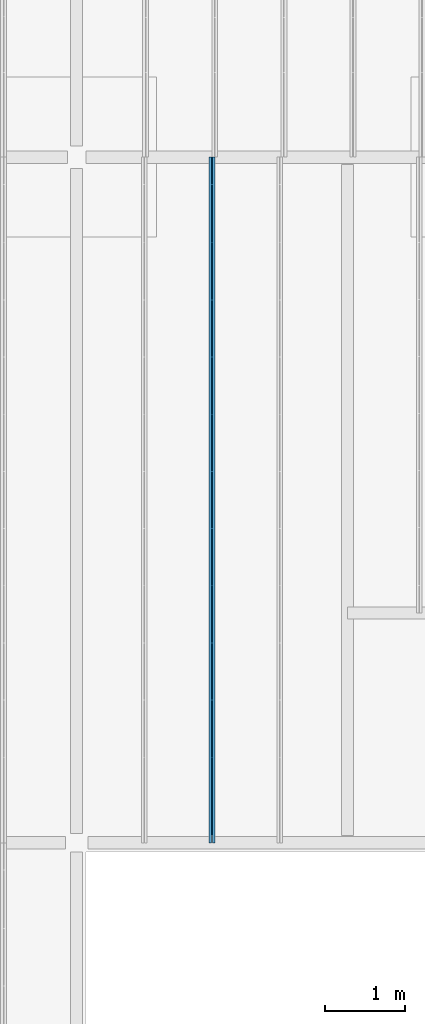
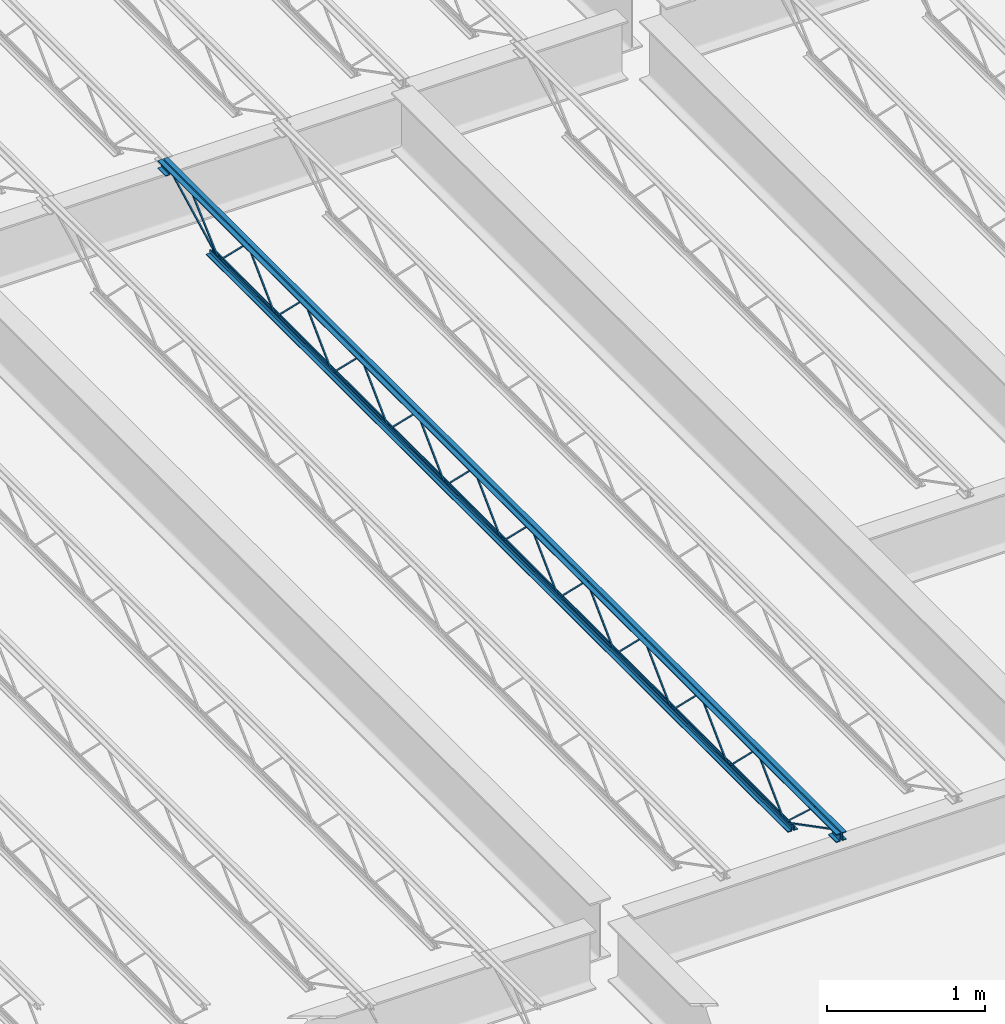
# One storey, part 18 of 75: 1 beam.
"""IFC2X3 building model written with IfcOpenShell, lengths in metres."""

from ifc_helpers import new_model, entity, si_unit, converted_unit, frame, origin, place, context, project, spatial, face_set, surface_model, element, save


model = new_model("IFC2X3")

# Units and contexts
model_context = context("Model", 3, precision=1e-09, world=origin())
plan_context = context("Plan", 3, precision=1e-09, world=origin())
ifc_project = project(units=[si_unit("LENGTHUNIT", "METRE"), si_unit("AREAUNIT", "SQUARE_METRE"), si_unit("VOLUMEUNIT", "CUBIC_METRE"), converted_unit("PLANEANGLEUNIT", "DEGREE", entity("IfcRatioMeasure", 0.01745329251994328), si_unit("PLANEANGLEUNIT", "RADIAN"), dimensions=[0, 0, 0, 0, 0, 0, 0]), si_unit("TIMEUNIT", "SECOND")], contexts=[model_context, plan_context])

# Site, building, storey
site_placement = place(None, origin())
site = spatial("IfcSite", under=ifc_project, at=site_placement, Name="Default", CompositionType="ELEMENT")
building_placement = place(site_placement, origin())
building = spatial("IfcBuilding", under=site, at=building_placement, CompositionType="ELEMENT")
storey_placement = place(building_placement, origin())
storey = spatial("IfcBuildingStorey", under=building, at=storey_placement, Name="First Floor", CompositionType="ELEMENT", Elevation=-3.531500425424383e-13)

# Beam
beam_placement = place(storey_placement, frame((-18.4042794, 10.03999999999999, 4.112000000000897), z_axis=(0.0, 0.0, 1.0), x_axis=(-1.0, 0.0, 0.0)))
element("IfcBeam", 1, at=beam_placement, inside=storey, Name="M_K-Series Bar Joist-Rod Web:14K1:14K1", ObjectType="M_K-Series Bar Joist-Rod Web:14K1", context=model_context, shape_type="SurfaceModel", body=[
    surface_model("IfcFaceBasedSurfaceModel", [(-0.03200000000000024, -2.141200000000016, 0.01110000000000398), (-0.04149999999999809, -2.141200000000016, 0.01110000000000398), (-0.04149999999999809, -2.141200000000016, 0.001600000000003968), (-0.03200000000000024, -2.141200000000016, 0.001600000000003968), (-0.04150000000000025, -2.139961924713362, 0.01110000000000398), (-0.03200000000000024, -2.139961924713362, 0.01110000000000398), (-0.04149999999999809, -2.136088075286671, 0.001600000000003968), (-0.04149999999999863, -1.785138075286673, 0.3449000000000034), (-0.04149999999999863, -1.782661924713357, 0.3449000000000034), (-0.04149999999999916, -1.431711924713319, 0.001600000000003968), (-0.04149999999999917, -1.426600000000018, 0.001600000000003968), (-0.04149999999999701, -1.426600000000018, 0.01110000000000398), (-0.04149999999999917, -1.427838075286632, 0.01110000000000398), (-0.04149999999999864, -1.77878807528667, 0.3544000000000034), (-0.04149999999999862, -1.78901192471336, 0.3544000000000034), (-0.03199999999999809, -2.136088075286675, 0.001600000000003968), (-0.03200000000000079, -1.785138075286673, 0.3449000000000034), (-0.03200000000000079, -1.782661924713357, 0.3449000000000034), (-0.03200000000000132, -1.431711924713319, 0.001600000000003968), (-0.03200000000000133, -1.426600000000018, 0.001600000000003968), (-0.03200000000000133, -1.426600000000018, 0.01110000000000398), (-0.03200000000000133, -1.427838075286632, 0.01110000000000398), (-0.03200000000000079, -1.77878807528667, 0.3544000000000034), (-0.03200000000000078, -1.78901192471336, 0.3544000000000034), (-0.03200000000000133, -2.855800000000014, 0.01110000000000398), (-0.04149999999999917, -2.855800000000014, 0.01110000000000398), (-0.04149999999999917, -2.855800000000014, 0.001600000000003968), (-0.03200000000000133, -2.855800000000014, 0.001600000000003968), (-0.04150000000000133, -2.854561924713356, 0.01110000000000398), (-0.03200000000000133, -2.854561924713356, 0.01110000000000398), (-0.04149999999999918, -2.850688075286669, 0.001600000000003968), (-0.04149999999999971, -2.499738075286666, 0.3449000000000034), (-0.04149999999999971, -2.497261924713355, 0.3449000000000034), (-0.04150000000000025, -2.146311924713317, 0.001600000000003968), (-0.04149999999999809, -2.141200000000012, 0.001600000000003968), (-0.04149999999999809, -2.141200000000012, 0.01110000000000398), (-0.04150000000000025, -2.14243807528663, 0.01110000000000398), (-0.04149999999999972, -2.493388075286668, 0.3544000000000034), (-0.0414999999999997, -2.503611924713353, 0.3544000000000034), (-0.03199999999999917, -2.850688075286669, 0.001600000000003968), (-0.03200000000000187, -2.499738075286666, 0.3449000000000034), (-0.03200000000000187, -2.497261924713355, 0.3449000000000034), (-0.0320000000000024, -2.146311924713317, 0.001600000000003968), (-0.03200000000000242, -2.141200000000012, 0.001600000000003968), (-0.03200000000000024, -2.141200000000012, 0.01110000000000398), (-0.03200000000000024, -2.14243807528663, 0.01110000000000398), (-0.03200000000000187, -2.493388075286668, 0.3544000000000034), (-0.03200000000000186, -2.503611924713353, 0.3544000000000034), (-0.03200000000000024, -3.570400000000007, 0.01110000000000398), (-0.04149999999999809, -3.570400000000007, 0.01110000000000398), (-0.04149999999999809, -3.570400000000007, 0.001600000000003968), (-0.03200000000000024, -3.570400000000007, 0.001600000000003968), (-0.04150000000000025, -3.569161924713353, 0.01110000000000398), (-0.03200000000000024, -3.569161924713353, 0.01110000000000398), (-0.04149999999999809, -3.565288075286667, 0.001600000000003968), (-0.04149999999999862, -3.214338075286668, 0.3449000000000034), (-0.04149999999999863, -3.211861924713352, 0.3449000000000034), (-0.04149999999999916, -2.860911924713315, 0.001600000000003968), (-0.04149999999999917, -2.855800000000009, 0.001600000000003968), (-0.04149999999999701, -2.855800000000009, 0.01110000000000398), (-0.04149999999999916, -2.857038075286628, 0.01110000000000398), (-0.04149999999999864, -3.207988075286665, 0.3544000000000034), (-0.04149999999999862, -3.218211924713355, 0.3544000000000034), (-0.03199999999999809, -3.565288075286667, 0.001600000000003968), (-0.03200000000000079, -3.214338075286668, 0.3449000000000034), (-0.03200000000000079, -3.211861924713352, 0.3449000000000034), (-0.03200000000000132, -2.860911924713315, 0.001600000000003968), (-0.03200000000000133, -2.855800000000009, 0.001600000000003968), (-0.03200000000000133, -2.855800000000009, 0.01110000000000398), (-0.03200000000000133, -2.857038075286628, 0.01110000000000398), (-0.03200000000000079, -3.207988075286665, 0.3544000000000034), (-0.03200000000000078, -3.218211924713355, 0.3544000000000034), (-0.03200000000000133, -4.285000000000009, 0.01110000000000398), (-0.04149999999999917, -4.285000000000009, 0.01110000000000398), (-0.04149999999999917, -4.285000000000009, 0.001600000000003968), (-0.03200000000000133, -4.285000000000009, 0.001600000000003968), (-0.04150000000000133, -4.283761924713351, 0.01110000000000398), (-0.03200000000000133, -4.283761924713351, 0.01110000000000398), (-0.04149999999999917, -4.279888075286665, 0.001600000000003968), (-0.0414999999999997, -3.928938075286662, 0.3449000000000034), (-0.04149999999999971, -3.92646192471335, 0.3449000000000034), (-0.04150000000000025, -3.575511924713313, 0.001600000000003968), (-0.04150000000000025, -3.571638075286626, 0.01110000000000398), (-0.04149999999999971, -3.922588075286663, 0.3544000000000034), (-0.0414999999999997, -3.932811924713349, 0.3544000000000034), (-0.03199999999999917, -4.279888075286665, 0.001600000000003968), (-0.03200000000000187, -3.928938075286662, 0.3449000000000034), (-0.03200000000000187, -3.92646192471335, 0.3449000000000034), (-0.0320000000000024, -3.575511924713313, 0.001600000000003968), (-0.03200000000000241, -3.570400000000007, 0.001600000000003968), (-0.03200000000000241, -3.571638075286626, 0.01110000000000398), (-0.03200000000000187, -3.922588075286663, 0.3544000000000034), (-0.03200000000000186, -3.932811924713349, 0.3544000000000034), (-0.03200000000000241, -4.999600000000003, 0.01110000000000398), (-0.04150000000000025, -4.999600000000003, 0.01110000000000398), (-0.04150000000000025, -4.999600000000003, 0.001600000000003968), (-0.03200000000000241, -4.999600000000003, 0.001600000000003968), (-0.04150000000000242, -4.998361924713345, 0.01110000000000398), (-0.03200000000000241, -4.998361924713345, 0.01110000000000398), (-0.04149999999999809, -4.994488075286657, 0.001600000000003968), (-0.04149999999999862, -4.643538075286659, 0.3449000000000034), (-0.04149999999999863, -4.641061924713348, 0.3449000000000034), (-0.04149999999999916, -4.290111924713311, 0.001600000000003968), (-0.04149999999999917, -4.285000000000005, 0.001600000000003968), (-0.04149999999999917, -4.285, 0.01110000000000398), (-0.04150000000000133, -4.286238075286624, 0.01110000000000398), (-0.04150000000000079, -4.637188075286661, 0.3544000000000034), (-0.04150000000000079, -4.647411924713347, 0.3544000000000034), (-0.03200000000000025, -4.994488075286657, 0.001600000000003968), (-0.03200000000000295, -4.643538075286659, 0.3449000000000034), (-0.03200000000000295, -4.641061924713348, 0.3449000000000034), (-0.03200000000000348, -4.290111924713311, 0.001600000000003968), (-0.03200000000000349, -4.285, 0.001600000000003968), (-0.03200000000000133, -4.285000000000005, 0.01110000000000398), (-0.03200000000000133, -4.286238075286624, 0.01110000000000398), (-0.03200000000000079, -4.637188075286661, 0.3544000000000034), (-0.03200000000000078, -4.647411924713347, 0.3544000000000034), (-0.03200000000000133, -5.714200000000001, 0.01110000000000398), (-0.04149999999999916, -5.714200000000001, 0.01110000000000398), (-0.04149999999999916, -5.714200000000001, 0.001600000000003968), (-0.03200000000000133, -5.714200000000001, 0.001600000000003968), (-0.04150000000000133, -5.712961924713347, 0.01110000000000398), (-0.03200000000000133, -5.712961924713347, 0.01110000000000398), (-0.04149999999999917, -5.70908807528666, 0.001600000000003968), (-0.0414999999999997, -5.358138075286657, 0.3449000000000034), (-0.04149999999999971, -5.355661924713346, 0.3449000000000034), (-0.04150000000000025, -5.004711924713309, 0.001600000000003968), (-0.04149999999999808, -4.999600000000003, 0.01110000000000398), (-0.04150000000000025, -5.000838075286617, 0.01110000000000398), (-0.04149999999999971, -5.351788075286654, 0.3544000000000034), (-0.0414999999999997, -5.362011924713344, 0.3544000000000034), (-0.03199999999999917, -5.70908807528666, 0.001600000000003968), (-0.03200000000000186, -5.358138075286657, 0.3449000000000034), (-0.03200000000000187, -5.355661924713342, 0.3449000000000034), (-0.0320000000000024, -5.004711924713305, 0.001600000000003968), (-0.0320000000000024, -5.000838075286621, 0.01110000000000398), (-0.03200000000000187, -5.351788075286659, 0.3544000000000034), (-0.03200000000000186, -5.362011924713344, 0.3544000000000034), (-0.03200000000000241, -6.428799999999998, 0.01110000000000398), (-0.04150000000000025, -6.428799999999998, 0.01110000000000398), (-0.04150000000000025, -6.428799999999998, 0.001600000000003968), (-0.03200000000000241, -6.428799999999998, 0.001600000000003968), (-0.04150000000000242, -6.42756192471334, 0.01110000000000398), (-0.03200000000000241, -6.42756192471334, 0.01110000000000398), (-0.04149999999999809, -6.423688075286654, 0.001600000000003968), (-0.04149999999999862, -6.072738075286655, 0.3449000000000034), (-0.04149999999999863, -6.070261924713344, 0.3449000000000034), (-0.04149999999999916, -5.719311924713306, 0.001600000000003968), (-0.04149999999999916, -5.714199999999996, 0.001600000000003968), (-0.04149999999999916, -5.714199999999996, 0.01110000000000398), (-0.04150000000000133, -5.715438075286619, 0.01110000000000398), (-0.04150000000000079, -6.066388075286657, 0.3544000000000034), (-0.04150000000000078, -6.076611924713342, 0.3544000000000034), (-0.03200000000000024, -6.423688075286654, 0.001600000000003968), (-0.03200000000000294, -6.072738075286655, 0.3449000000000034), (-0.03200000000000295, -6.070261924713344, 0.3449000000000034), (-0.03200000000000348, -5.719311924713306, 0.001600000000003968), (-0.03200000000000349, -5.714199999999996, 0.001600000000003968), (-0.03200000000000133, -5.714199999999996, 0.01110000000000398), (-0.03200000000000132, -5.715438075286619, 0.01110000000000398), (-0.03200000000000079, -6.066388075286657, 0.3544000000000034), (-0.03200000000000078, -6.076611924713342, 0.3544000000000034), (-0.03200000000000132, -7.143399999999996, 0.01110000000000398), (-0.04149999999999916, -7.143399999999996, 0.01110000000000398), (-0.04149999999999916, -7.143399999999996, 0.001600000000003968), (-0.03200000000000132, -7.143399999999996, 0.001600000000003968), (-0.04150000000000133, -7.142161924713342, 0.01110000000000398), (-0.03200000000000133, -7.142161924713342, 0.01110000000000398), (-0.04149999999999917, -7.138288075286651, 0.001600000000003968), (-0.0414999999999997, -6.787338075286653, 0.3449000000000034), (-0.0414999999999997, -6.784861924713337, 0.3449000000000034), (-0.04150000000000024, -6.4339119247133, 0.001600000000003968), (-0.04149999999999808, -6.428799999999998, 0.01110000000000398), (-0.04150000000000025, -6.430038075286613, 0.01110000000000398), (-0.04149999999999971, -6.780988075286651, 0.3544000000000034), (-0.0414999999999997, -6.79121192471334, 0.3544000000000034), (-0.03199999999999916, -7.138288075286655, 0.001600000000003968), (-0.03200000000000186, -6.787338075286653, 0.3449000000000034), (-0.03200000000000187, -6.784861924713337, 0.3449000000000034), (-0.0320000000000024, -6.4339119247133, 0.001600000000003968), (-0.0320000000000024, -6.430038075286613, 0.01110000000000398), (-0.03200000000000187, -6.780988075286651, 0.3544000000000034), (-0.03200000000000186, -6.79121192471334, 0.3544000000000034), (-0.03199999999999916, -1.426600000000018, 0.01109999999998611), (-0.04149999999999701, -1.426600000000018, 0.01109999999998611), (-0.04149999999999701, -1.426600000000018, 0.0015999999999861), (-0.03199999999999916, -1.426600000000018, 0.0015999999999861), (-0.04149999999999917, -1.42536192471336, 0.01109999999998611), (-0.03199999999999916, -1.42536192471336, 0.01109999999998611), (-0.04149999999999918, -1.421488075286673, 0.0015999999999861), (-0.04149999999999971, -1.07053807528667, 0.3448999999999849), (-0.04149999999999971, -1.068061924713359, 0.3448999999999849), (-0.04150000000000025, -0.7171119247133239, 0.0015999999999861), (-0.04149999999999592, -0.712000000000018, 0.0015999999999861), (-0.04149999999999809, -0.712000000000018, 0.01109999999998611), (-0.04150000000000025, -0.7132380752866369, 0.01109999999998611), (-0.04149999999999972, -1.064188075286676, 0.354399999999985), (-0.0414999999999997, -1.074411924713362, 0.354399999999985), (-0.03199999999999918, -1.421488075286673, 0.0015999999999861), (-0.0319999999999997, -1.070538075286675, 0.3448999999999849), (-0.0319999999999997, -1.068061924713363, 0.3448999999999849), (-0.03200000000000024, -0.7171119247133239, 0.0015999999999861), (-0.03200000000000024, -0.712000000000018, 0.0015999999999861), (-0.03199999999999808, -0.712000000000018, 0.01109999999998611), (-0.03199999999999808, -0.7132380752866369, 0.01109999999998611), (-0.03199999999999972, -1.064188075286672, 0.354399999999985), (-0.0319999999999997, -1.074411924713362, 0.354399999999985), (-0.0320000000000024, -7.857999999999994, 0.01110000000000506), (-0.04150000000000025, -7.857999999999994, 0.01110000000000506), (-0.04150000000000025, -7.857999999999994, 0.001600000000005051), (-0.0320000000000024, -7.857999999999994, 0.001600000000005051), (-0.04150000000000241, -7.856761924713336, 0.01110000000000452), (-0.03200000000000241, -7.856761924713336, 0.01110000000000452), (-0.04149999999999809, -7.852888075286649, 0.001600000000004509), (-0.04149999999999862, -7.501938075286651, 0.3449000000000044), (-0.04149999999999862, -7.499461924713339, 0.3449000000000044), (-0.04149999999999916, -7.148511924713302, 0.001600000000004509), (-0.04149999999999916, -7.143399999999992, 0.001600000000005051), (-0.04149999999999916, -7.143399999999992, 0.01110000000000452), (-0.04150000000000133, -7.144638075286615, 0.01110000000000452), (-0.04150000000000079, -7.495588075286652, 0.3544000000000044), (-0.04150000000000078, -7.505811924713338, 0.3544000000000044), (-0.03200000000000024, -7.852888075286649, 0.001600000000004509), (-0.03200000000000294, -7.501938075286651, 0.3449000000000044), (-0.03200000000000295, -7.499461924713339, 0.3449000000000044), (-0.03200000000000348, -7.148511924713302, 0.001600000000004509), (-0.03200000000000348, -7.143399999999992, 0.001600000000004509), (-0.03200000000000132, -7.143399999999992, 0.01110000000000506), (-0.03200000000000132, -7.144638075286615, 0.01110000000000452), (-0.03200000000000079, -7.495588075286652, 0.3544000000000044), (-0.03200000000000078, -7.505811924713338, 0.3544000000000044), (-0.04150000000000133, 0.0, 0.3559999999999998), (-0.07350000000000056, 0.0, 0.3559999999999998), (-0.07350000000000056, 0.0, 0.349499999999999), (-0.04800000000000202, 0.0, 0.349499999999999), (-0.04800000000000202, 0.0, 0.3239999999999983), (-0.04150000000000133, 0.0, 0.3239999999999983), (-0.03200000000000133, 0.0, 0.3559999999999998), (-0.03200000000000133, 0.0, 0.3239999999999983), (-0.02550000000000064, 0.0, 0.3239999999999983), (-0.02550000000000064, 0.0, 0.349499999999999), (0.0, 0.0, 0.349499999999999), (0.0, 0.0, 0.3559999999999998), (-0.04150000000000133, -8.569999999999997, 0.3559999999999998), (-0.07350000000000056, -8.569999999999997, 0.3559999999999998), (-0.07350000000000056, -8.569999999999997, 0.349499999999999), (-0.04800000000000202, -8.569999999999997, 0.349499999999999), (-0.04800000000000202, -8.569999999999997, 0.3239999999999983), (-0.04150000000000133, -8.569999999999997, 0.3239999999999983), (-0.03200000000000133, -8.569999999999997, 0.3559999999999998), (-0.03200000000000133, -8.569999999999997, 0.3239999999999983), (-0.02550000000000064, -8.569999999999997, 0.3239999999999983), (-0.02550000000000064, -8.569999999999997, 0.349499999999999), (0.0, -8.569999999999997, 0.349499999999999), (0.0, -8.569999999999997, 0.3559999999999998), (-0.03200000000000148, -8.470000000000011, 0.2924999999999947), (0.0, -8.470000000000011, 0.2924999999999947), (0.0, -8.470000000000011, 0.2989999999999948), (-0.02550000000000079, -8.470000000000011, 0.2989999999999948), (-0.02550000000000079, -8.470000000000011, 0.3239999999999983), (-0.03200000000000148, -8.470000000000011, 0.3239999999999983), (-0.0735000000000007, -8.470000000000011, 0.2924999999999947), (-0.04150000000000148, -8.470000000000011, 0.2924999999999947), (-0.04150000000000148, -8.470000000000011, 0.3239999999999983), (-0.04800000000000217, -8.470000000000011, 0.3239999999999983), (-0.04800000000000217, -8.470000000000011, 0.2989999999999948), (-0.0735000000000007, -8.470000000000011, 0.2989999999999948), (-0.03200000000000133, -8.569999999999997, 0.2924999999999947), (0.0, -8.569999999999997, 0.2924999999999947), (0.0, -8.569999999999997, 0.2989999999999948), (-0.02550000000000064, -8.569999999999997, 0.2989999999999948), (-0.07350000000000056, -8.569999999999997, 0.2924999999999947), (-0.04150000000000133, -8.569999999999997, 0.2924999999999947), (-0.04800000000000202, -8.569999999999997, 0.2989999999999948), (-0.07350000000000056, -8.569999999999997, 0.2989999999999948), (-0.04150000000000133, 0.0, 0.2924999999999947), (-0.04799999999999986, 0.0, 0.3239999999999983), (-0.04799999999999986, 0.0, 0.2989999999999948), (-0.07350000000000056, 0.0, 0.2989999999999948), (-0.07350000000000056, 0.0, 0.2924999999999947), (-0.03200000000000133, 0.0, 0.2924999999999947), (0.0, 0.0, 0.2924999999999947), (0.0, 0.0, 0.2989999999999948), (-0.02550000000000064, 0.0, 0.2989999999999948), (-0.04150000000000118, -0.09999999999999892, 0.2924999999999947), (-0.04150000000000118, -0.09999999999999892, 0.3239999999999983), (-0.0479999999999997, -0.09999999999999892, 0.3239999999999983), (-0.0479999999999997, -0.09999999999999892, 0.2989999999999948), (-0.07350000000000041, -0.09999999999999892, 0.2989999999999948), (-0.07350000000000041, -0.09999999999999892, 0.2924999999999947), (-0.03200000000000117, -0.09999999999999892, 0.2924999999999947), (0.0, -0.09999999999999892, 0.2924999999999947), (0.0, -0.09999999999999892, 0.2989999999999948), (-0.02550000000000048, -0.09999999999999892, 0.2989999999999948), (-0.02550000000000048, -0.09999999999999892, 0.3239999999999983), (-0.03200000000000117, -0.09999999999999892, 0.3239999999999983), (-0.04150000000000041, -0.6119999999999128, 0.0), (-0.04150000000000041, -0.6119999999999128, 0.03199999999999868), (-0.04800000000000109, -0.6119999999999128, 0.03199999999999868), (-0.04800000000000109, -0.6119999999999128, 0.006499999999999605), (-0.07349999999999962, -0.6119999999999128, 0.006499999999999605), (-0.07349999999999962, -0.6119999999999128, 0.0), (-0.0320000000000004, -0.6119999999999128, 0.0), (0.0, -0.6119999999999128, 0.0), (0.0, -0.6119999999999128, 0.006499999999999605), (-0.02549999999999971, -0.6119999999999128, 0.006499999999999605), (-0.02549999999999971, -0.6119999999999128, 0.03199999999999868), (-0.0320000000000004, -0.6119999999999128, 0.03199999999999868), (-0.04150000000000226, -7.957999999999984, 0.0), (-0.04150000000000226, -7.957999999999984, 0.03199999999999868), (-0.04800000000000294, -7.957999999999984, 0.03199999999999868), (-0.04800000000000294, -7.957999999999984, 0.006499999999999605), (-0.07350000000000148, -7.957999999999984, 0.006499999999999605), (-0.07350000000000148, -7.957999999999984, 0.0), (-0.03200000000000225, -7.957999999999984, 0.0), (0.0, -7.957999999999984, 0.0), (0.0, -7.957999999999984, 0.006499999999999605), (-0.02550000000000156, -7.957999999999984, 0.006499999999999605), (-0.02550000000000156, -7.957999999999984, 0.03199999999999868), (-0.03200000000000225, -7.957999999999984, 0.03199999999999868), (-0.03200000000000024, -7.855811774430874, 0.01056594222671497), (-0.04150000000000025, -7.855811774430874, 0.01056594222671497), (-0.04150000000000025, -7.860188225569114, 0.002134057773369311), (-0.0320000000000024, -7.860188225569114, 0.002134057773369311), (-0.03199999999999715, -8.468840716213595, 0.3287499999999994), (-0.031999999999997, -8.569999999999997, 0.3287499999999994), (-0.03199999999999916, -8.569999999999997, 0.3192499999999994), (-0.03199999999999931, -8.471159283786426, 0.3192499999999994), (-0.04149999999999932, -8.471159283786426, 0.3192499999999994), (-0.04149999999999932, -8.468840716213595, 0.3287499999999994), (-0.04149999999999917, -8.569999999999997, 0.3287499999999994), (-0.04149999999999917, -8.569999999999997, 0.3192499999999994), (-0.03200000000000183, -8.23525714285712, 0.341700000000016), (-0.04149999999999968, -8.23525714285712, 0.341700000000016), (-0.04149999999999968, -8.23525714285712, 0.332200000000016), (-0.03200000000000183, -8.23525714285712, 0.332200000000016), (-0.04150000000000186, -8.22072410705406, 0.341700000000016), (-0.03200000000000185, -8.220724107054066, 0.341700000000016), (-0.04149999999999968, -8.224390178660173, 0.332200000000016), (-0.04150000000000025, -7.861190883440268, 0.002831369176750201), (-0.04150000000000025, -7.854809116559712, 0.009868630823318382), (-0.03199999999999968, -8.224390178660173, 0.332200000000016), (-0.0320000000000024, -7.861190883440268, 0.002831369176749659), (-0.03200000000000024, -7.854809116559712, 0.009868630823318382), (-0.03199999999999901, -0.09781177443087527, 0.3197840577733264), (-0.03200000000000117, -0.1021882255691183, 0.3282159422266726), (-0.04150000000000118, -0.1021882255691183, 0.3282159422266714), (-0.04149999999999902, -0.09781177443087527, 0.3197840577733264), (-0.03199999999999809, -0.7098117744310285, 0.002134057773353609), (-0.03200000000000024, -0.7141882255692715, 0.01056594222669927), (-0.04150000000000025, -0.7141882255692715, 0.01056594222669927), (-0.04149999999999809, -0.7098117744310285, 0.002134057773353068), (-0.03199999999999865, -0.3369634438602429, 0.3461600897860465), (-0.03200000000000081, -0.3434079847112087, 0.3531399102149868), (-0.04150000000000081, -0.3434079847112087, 0.3531399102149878), (-0.04149999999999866, -0.3369634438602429, 0.3461600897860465), (-0.03199999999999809, -0.7087777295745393, 0.002860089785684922), (-0.03200000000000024, -0.7152222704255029, 0.009839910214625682), (-0.04150000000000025, -0.7152222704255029, 0.009839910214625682), (-0.04149999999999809, -0.7087777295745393, 0.002860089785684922)], [face_set([[[0, 1, 2, 3]], [[1, 4, 5, 0]], [[2, 6, 7, 8, 9, 10, 11, 12, 13, 14, 4, 1]], [[3, 2, 6, 15]], [[0, 3, 15, 16, 17, 18, 19, 20, 21, 22, 23, 5]], [[4, 5, 23, 14]], [[15, 16, 7, 6]], [[14, 13, 22, 23]], [[16, 7, 8, 17]], [[13, 12, 21, 22]], [[17, 8, 9, 18]], [[20, 11, 10, 19]], [[12, 11, 20, 21]], [[18, 9, 10, 19]]]), face_set([[[24, 25, 26, 27]], [[25, 28, 29, 24]], [[26, 30, 31, 32, 33, 34, 35, 36, 37, 38, 28, 25]], [[27, 26, 30, 39]], [[24, 27, 39, 40, 41, 42, 43, 44, 45, 46, 47, 29]], [[28, 29, 47, 38]], [[39, 40, 31, 30]], [[38, 37, 46, 47]], [[40, 31, 32, 41]], [[37, 36, 45, 46]], [[41, 32, 33, 42]], [[44, 35, 34, 43]], [[36, 35, 44, 45]], [[42, 33, 34, 43]]]), face_set([[[48, 49, 50, 51]], [[49, 52, 53, 48]], [[50, 54, 55, 56, 57, 58, 59, 60, 61, 62, 52, 49]], [[51, 50, 54, 63]], [[48, 51, 63, 64, 65, 66, 67, 68, 69, 70, 71, 53]], [[52, 53, 71, 62]], [[63, 64, 55, 54]], [[62, 61, 70, 71]], [[64, 55, 56, 65]], [[61, 60, 69, 70]], [[65, 56, 57, 66]], [[68, 59, 58, 67]], [[60, 59, 68, 69]], [[66, 57, 58, 67]]]), face_set([[[72, 73, 74, 75]], [[73, 76, 77, 72]], [[74, 78, 79, 80, 81, 50, 49, 82, 83, 84, 76, 73]], [[75, 74, 78, 85]], [[72, 75, 85, 86, 87, 88, 89, 48, 90, 91, 92, 77]], [[76, 77, 92, 84]], [[85, 86, 79, 78]], [[84, 83, 91, 92]], [[86, 79, 80, 87]], [[83, 82, 90, 91]], [[87, 80, 81, 88]], [[48, 49, 50, 89]], [[82, 49, 48, 90]], [[88, 81, 50, 89]]]), face_set([[[93, 94, 95, 96]], [[94, 97, 98, 93]], [[95, 99, 100, 101, 102, 103, 104, 105, 106, 107, 97, 94]], [[96, 95, 99, 108]], [[93, 96, 108, 109, 110, 111, 112, 113, 114, 115, 116, 98]], [[97, 98, 116, 107]], [[108, 109, 100, 99]], [[107, 106, 115, 116]], [[109, 100, 101, 110]], [[106, 105, 114, 115]], [[110, 101, 102, 111]], [[113, 104, 103, 112]], [[105, 104, 113, 114]], [[111, 102, 103, 112]]]), face_set([[[117, 118, 119, 120]], [[118, 121, 122, 117]], [[119, 123, 124, 125, 126, 95, 127, 128, 129, 130, 121, 118]], [[120, 119, 123, 131]], [[117, 120, 131, 132, 133, 134, 96, 93, 135, 136, 137, 122]], [[121, 122, 137, 130]], [[131, 132, 124, 123]], [[130, 129, 136, 137]], [[132, 124, 125, 133]], [[129, 128, 135, 136]], [[133, 125, 126, 134]], [[93, 127, 95, 96]], [[128, 127, 93, 135]], [[134, 126, 95, 96]]]), face_set([[[138, 139, 140, 141]], [[139, 142, 143, 138]], [[140, 144, 145, 146, 147, 148, 149, 150, 151, 152, 142, 139]], [[141, 140, 144, 153]], [[138, 141, 153, 154, 155, 156, 157, 158, 159, 160, 161, 143]], [[142, 143, 161, 152]], [[153, 154, 145, 144]], [[152, 151, 160, 161]], [[154, 145, 146, 155]], [[151, 150, 159, 160]], [[155, 146, 147, 156]], [[158, 149, 148, 157]], [[150, 149, 158, 159]], [[156, 147, 148, 157]]]), face_set([[[162, 163, 164, 165]], [[163, 166, 167, 162]], [[164, 168, 169, 170, 171, 140, 172, 173, 174, 175, 166, 163]], [[165, 164, 168, 176]], [[162, 165, 176, 177, 178, 179, 141, 138, 180, 181, 182, 167]], [[166, 167, 182, 175]], [[176, 177, 169, 168]], [[175, 174, 181, 182]], [[177, 169, 170, 178]], [[174, 173, 180, 181]], [[178, 170, 171, 179]], [[138, 172, 140, 141]], [[173, 172, 138, 180]], [[179, 171, 140, 141]]]), face_set([[[183, 184, 185, 186]], [[184, 187, 188, 183]], [[185, 189, 190, 191, 192, 193, 194, 195, 196, 197, 187, 184]], [[186, 185, 189, 198]], [[183, 186, 198, 199, 200, 201, 202, 203, 204, 205, 206, 188]], [[187, 188, 206, 197]], [[198, 199, 190, 189]], [[197, 196, 205, 206]], [[199, 190, 191, 200]], [[196, 195, 204, 205]], [[200, 191, 192, 201]], [[203, 194, 193, 202]], [[195, 194, 203, 204]], [[201, 192, 193, 202]]]), face_set([[[207, 208, 209, 210]], [[208, 211, 212, 207]], [[209, 213, 214, 215, 216, 217, 218, 219, 220, 221, 211, 208]], [[210, 209, 213, 222]], [[207, 210, 222, 223, 224, 225, 226, 227, 228, 229, 230, 212]], [[211, 212, 230, 221]], [[222, 223, 214, 213]], [[221, 220, 229, 230]], [[223, 214, 215, 224]], [[220, 219, 228, 229]], [[224, 215, 216, 225]], [[227, 218, 217, 226]], [[219, 218, 227, 228]], [[225, 216, 217, 226]]]), face_set([[[231, 232, 233, 234, 235, 236]], [[237, 238, 239, 240, 241, 242]], [[243, 244, 245, 246, 247, 248]], [[249, 250, 251, 252, 253, 254]], [[236, 231, 243, 248]], [[235, 236, 248, 247]], [[234, 246, 247, 235]], [[233, 234, 246, 245]], [[232, 244, 245, 233]], [[231, 243, 244, 232]], [[242, 254, 249, 237]], [[241, 242, 254, 253]], [[240, 241, 253, 252]], [[239, 240, 252, 251]], [[238, 239, 251, 250]], [[237, 249, 250, 238]]]), face_set([[[255, 256, 257, 258, 259, 260]], [[261, 262, 263, 264, 265, 266]], [[267, 268, 269, 270, 251, 250]], [[271, 272, 248, 247, 273, 274]], [[260, 250, 267, 255]], [[259, 251, 250, 260]], [[258, 259, 251, 270]], [[257, 269, 270, 258]], [[256, 257, 269, 268]], [[255, 256, 268, 267]], [[266, 274, 271, 261]], [[265, 273, 274, 266]], [[264, 247, 273, 265]], [[263, 248, 247, 264]], [[262, 263, 248, 272]], [[261, 262, 272, 271]]]), face_set([[[275, 236, 276, 277, 278, 279]], [[280, 281, 282, 283, 239, 238]], [[284, 285, 286, 287, 288, 289]], [[290, 291, 292, 293, 294, 295]], [[279, 275, 284, 289]], [[278, 288, 289, 279]], [[277, 287, 288, 278]], [[276, 286, 287, 277]], [[236, 285, 286, 276]], [[275, 236, 285, 284]], [[238, 295, 290, 280]], [[239, 294, 295, 238]], [[283, 239, 294, 293]], [[282, 292, 293, 283]], [[281, 282, 292, 291]], [[280, 281, 291, 290]]]), face_set([[[296, 297, 298, 299, 300, 301]], [[302, 303, 304, 305, 306, 307]], [[308, 309, 310, 311, 312, 313]], [[314, 315, 316, 317, 318, 319]], [[301, 296, 308, 313]], [[300, 312, 313, 301]], [[299, 311, 312, 300]], [[298, 310, 311, 299]], [[297, 309, 310, 298]], [[296, 297, 309, 308]], [[307, 319, 314, 302]], [[306, 318, 319, 307]], [[305, 306, 318, 317]], [[304, 316, 317, 305]], [[303, 304, 316, 315]], [[302, 303, 315, 314]]]), face_set([[[320, 321, 322, 323]], [[323, 320, 324, 325, 326, 327]], [[322, 323, 327, 328]], [[321, 329, 330, 331, 328, 322]], [[320, 324, 329, 321]], [[325, 330, 331, 326]], [[328, 327, 326, 331]], [[324, 325, 330, 329]]]), face_set([[[332, 333, 334, 335]], [[333, 336, 337, 332]], [[334, 338, 339, 340, 336, 333]], [[335, 334, 338, 341]], [[332, 335, 341, 342, 343, 337]], [[343, 340, 339, 342]], [[336, 340, 343, 337]], [[341, 338, 339, 342]]]), face_set([[[344, 345, 346, 347]], [[348, 349, 350, 351]], [[347, 351, 348, 344]], [[346, 350, 351, 347]], [[345, 346, 350, 349]], [[344, 345, 349, 348]]]), face_set([[[352, 353, 354, 355]], [[356, 357, 358, 359]], [[355, 359, 356, 352]], [[354, 358, 359, 355]], [[353, 354, 358, 357]], [[352, 353, 357, 356]]])]),
])

save(model, "model.ifc")
